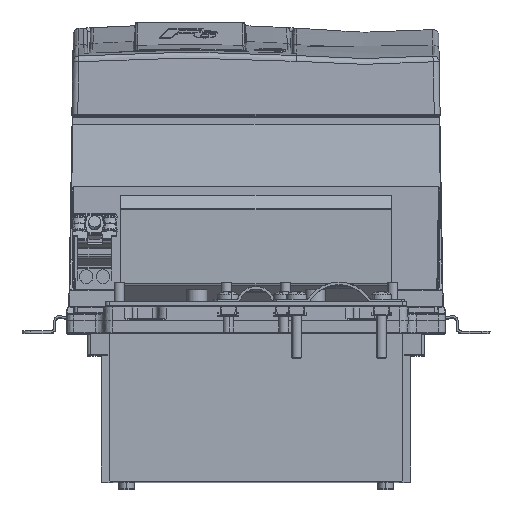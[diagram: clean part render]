
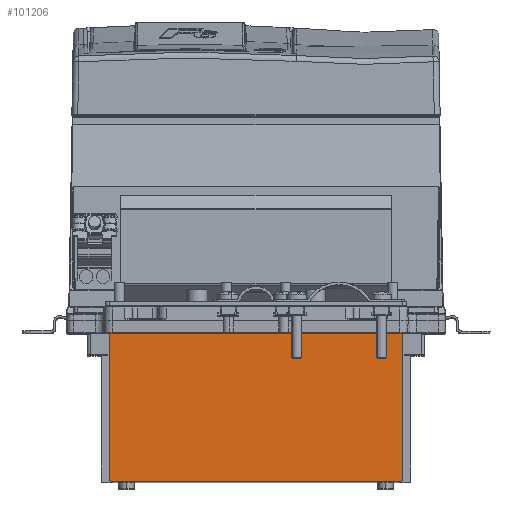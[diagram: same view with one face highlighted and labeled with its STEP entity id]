
A CAD part, top view. The second image highlights one B-rep face of the part: STEP entity #101206.
In plain terms, the highlighted planar face has unit normal (0, 0, 1).
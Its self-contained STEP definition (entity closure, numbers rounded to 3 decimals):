
#1093 = ORIENTED_EDGE ( 'NONE', *, *, #102792, .T. ) ;
#2256 = LINE ( 'NONE', #64531, #69851 ) ;
#9289 = PLANE ( 'NONE',  #88993 ) ;
#12784 = CARTESIAN_POINT ( 'NONE',  ( -83., -75., 159. ) ) ;
#17690 = CARTESIAN_POINT ( 'NONE',  ( 89., -73., 159. ) ) ;
#19013 = LINE ( 'NONE', #120837, #116668 ) ;
#33355 = DIRECTION ( 'NONE',  ( 0., 0., 1. ) ) ;
#34194 = EDGE_CURVE ( 'NONE', #103908, #34939, #97761, .T. ) ;
#34213 = CARTESIAN_POINT ( 'NONE',  ( -85., -73., 159. ) ) ;
#34939 = VERTEX_POINT ( 'NONE', #12784 ) ;
#37105 = DIRECTION ( 'NONE',  ( 1., 0., 0. ) ) ;
#38094 = ORIENTED_EDGE ( 'NONE', *, *, #72249, .T. ) ;
#40086 = DIRECTION ( 'NONE',  ( 0., 0., 1. ) ) ;
#40347 = VERTEX_POINT ( 'NONE', #51500 ) ;
#41522 = VERTEX_POINT ( 'NONE', #101913 ) ;
#43128 = DIRECTION ( 'NONE',  ( -1., 0., 0. ) ) ;
#47798 = CARTESIAN_POINT ( 'NONE',  ( 87., -73., 159. ) ) ;
#50187 = VERTEX_POINT ( 'NONE', #81848 ) ;
#50767 = CARTESIAN_POINT ( 'NONE',  ( 87., 10., 159. ) ) ;
#51500 = CARTESIAN_POINT ( 'NONE',  ( 87., -75., 159. ) ) ;
#52945 = ORIENTED_EDGE ( 'NONE', *, *, #111349, .T. ) ;
#55037 = EDGE_LOOP ( 'NONE', ( #52945, #92022, #38094, #96008, #1093, #116686 ) ) ;
#64531 = CARTESIAN_POINT ( 'NONE',  ( 89., 13., 159. ) ) ;
#69851 = VECTOR ( 'NONE', #43128, 1000. ) ;
#72249 = EDGE_CURVE ( 'NONE', #34939, #40347, #19013, .T. ) ;
#74386 = EDGE_CURVE ( 'NONE', #75446, #41522, #2256, .T. ) ;
#75313 = CARTESIAN_POINT ( 'NONE',  ( -85., -73., 159. ) ) ;
#75446 = VERTEX_POINT ( 'NONE', #88044 ) ;
#78579 = DIRECTION ( 'NONE',  ( 0., 1., 0. ) ) ;
#80691 = CIRCLE ( 'NONE', #82887, 2. ) ;
#80902 = DIRECTION ( 'NONE',  ( -1., 0., 0. ) ) ;
#81848 = CARTESIAN_POINT ( 'NONE',  ( 89., -73., 159. ) ) ;
#82887 = AXIS2_PLACEMENT_3D ( 'NONE', #47798, #108765, #37105 ) ;
#88044 = CARTESIAN_POINT ( 'NONE',  ( 89., 13., 159. ) ) ;
#88993 = AXIS2_PLACEMENT_3D ( 'NONE', #50767, #40086, #80902 ) ;
#92022 = ORIENTED_EDGE ( 'NONE', *, *, #34194, .T. ) ;
#94498 = DIRECTION ( 'NONE',  ( 0., -1., 0. ) ) ;
#96008 = ORIENTED_EDGE ( 'NONE', *, *, #131926, .T. ) ;
#97761 = CIRCLE ( 'NONE', #132010, 2. ) ;
#101206 = ADVANCED_FACE ( 'NONE', ( #109815 ), #9289, .T. ) ;
#101913 = CARTESIAN_POINT ( 'NONE',  ( -85., 13., 159. ) ) ;
#102792 = EDGE_CURVE ( 'NONE', #50187, #75446, #127588, .T. ) ;
#103908 = VERTEX_POINT ( 'NONE', #75313 ) ;
#108765 = DIRECTION ( 'NONE',  ( 0., 0., 1. ) ) ;
#109466 = DIRECTION ( 'NONE',  ( 1., 0., 0. ) ) ;
#109815 = FACE_OUTER_BOUND ( 'NONE', #55037, .T. ) ;
#111349 = EDGE_CURVE ( 'NONE', #41522, #103908, #125985, .T. ) ;
#113748 = DIRECTION ( 'NONE',  ( 1., 0., 0. ) ) ;
#115864 = VECTOR ( 'NONE', #94498, 1000. ) ;
#116668 = VECTOR ( 'NONE', #109466, 1000. ) ;
#116686 = ORIENTED_EDGE ( 'NONE', *, *, #74386, .T. ) ;
#120837 = CARTESIAN_POINT ( 'NONE',  ( -83., -75., 159. ) ) ;
#123129 = CARTESIAN_POINT ( 'NONE',  ( -83., -73., 159. ) ) ;
#125982 = VECTOR ( 'NONE', #78579, 1000. ) ;
#125985 = LINE ( 'NONE', #34213, #115864 ) ;
#127588 = LINE ( 'NONE', #17690, #125982 ) ;
#131926 = EDGE_CURVE ( 'NONE', #40347, #50187, #80691, .T. ) ;
#132010 = AXIS2_PLACEMENT_3D ( 'NONE', #123129, #33355, #113748 ) ;
